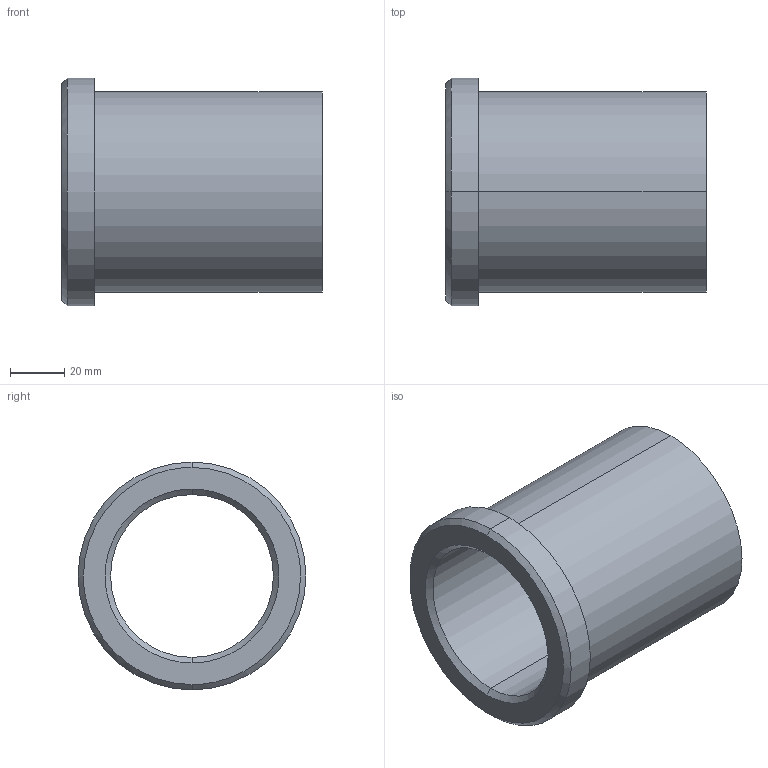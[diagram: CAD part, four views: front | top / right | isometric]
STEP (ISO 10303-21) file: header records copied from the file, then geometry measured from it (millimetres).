
FILE_DESCRIPTION(('CATIA V5 STEP Exchange'),'2;1');
FILE_NAME('C:\Users\Utente\Desktop\IO LAVORO\3D X SITO CF\X SITO\PLASTICA\353\353-60X96.stp','2021-05-14T18:00:13+00:00',('none'),('none'),'CATIA Version 5 Release 20 GA (IN-10)','CATIA V5 STEP AP203','none');
FILE_SCHEMA(('CONFIG_CONTROL_DESIGN'));
Length unit declared in the file: millimetre
Products named in the file (1): 353-60x96
Bounding box: 96 x 84 x 84 mm (x, y, z)
Volume: 155061.2 mm3; surface area: 45450.4 mm2
Topology: 1 solids, 1 shells, 15 faces, 48 edges, 36 vertices
Faces by surface type: cylinder 6, cone 4, plane 3, torus 2
Entity records: 680 total; most frequent: CARTESIAN_POINT 212, ORIENTED_EDGE 96, DIRECTION 70, EDGE_CURVE 48, AXIS2_PLACEMENT_3D 46, VERTEX_POINT 36, CIRCLE 30, EDGE_LOOP 18
